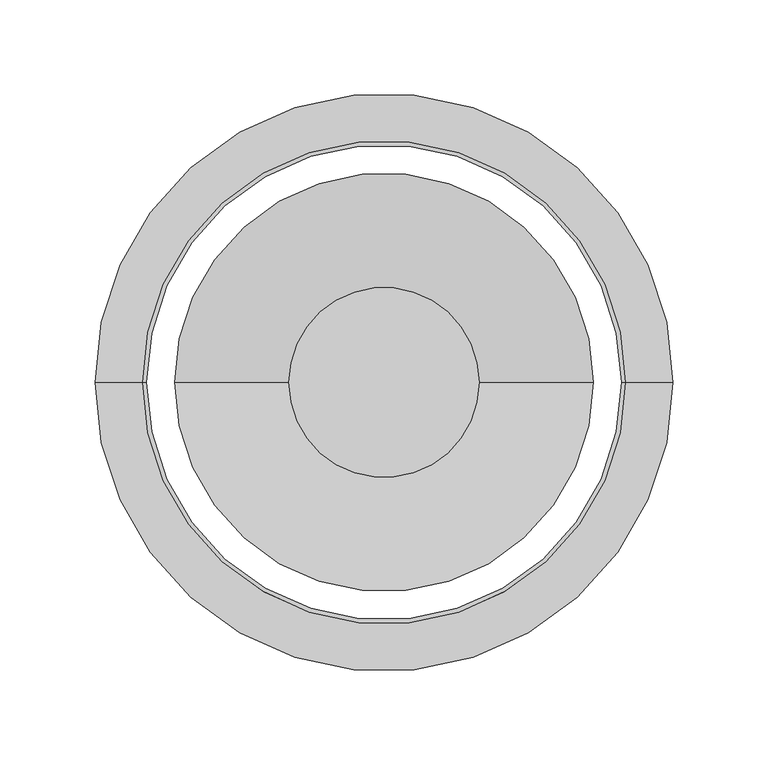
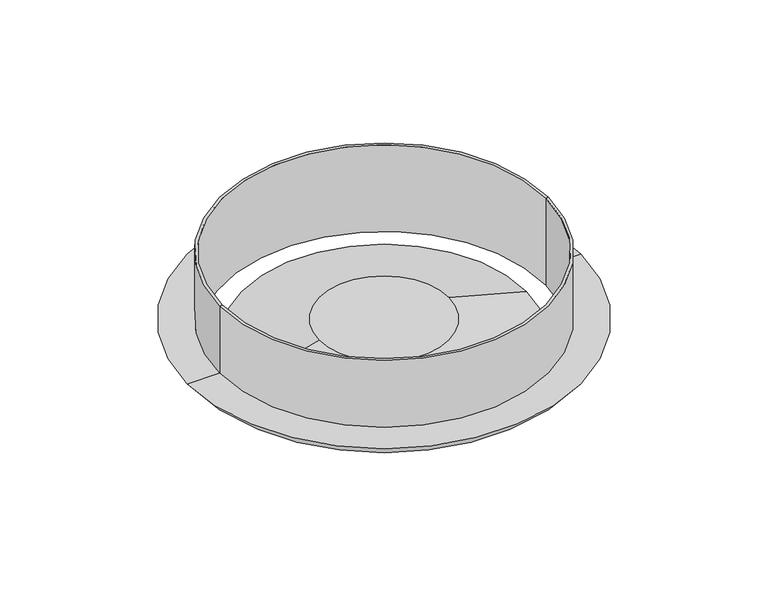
"""IFC4 building model written with IfcOpenShell, lengths in millimetres: air terminal geometry, ADSK_Диффузор_Круглый_Вытяжной : Ф250."""

from ifc_helpers import new_model, si_unit, point, frame, origin, origin_with_axes, place, context, project, spatial, polyline, circle_curve, ellipse_curve, trimmed, source, transform, mapped, element, save
from ifc_brep_helpers import plane_surface, cylinder_surface, revolved_surface, advanced_brep


def air_terminal_78af20ec(model_context):
    return source(origin(), model_context, "Body", "AdvancedBrep", [
        advanced_brep(
        [(50.0, 0.0, 0.0), (-50.0, 0.0, 0.0), (110.0, 0.0, -16.0), (-110.0, 0.0, -16.0)],
        [
            (0, 1, circle_curve(origin_with_axes(), 50.0)),
            (1, 0, circle_curve(frame((0.0, 0.0, 0.0), z_axis=(0.0, 0.0, 1.0), x_axis=(-1.0, 0.0, 0.0)), 50.0)),
            (2, 3, circle_curve(frame((0.0, 0.0, -16.0), z_axis=(0.0, 0.0, -1.0), x_axis=(-1.0, 0.0, 0.0)), 110.0)),
            (3, 2, circle_curve(frame((0.0, 0.0, -16.0), z_axis=(0.0, 0.0, -1.0), x_axis=(1.0, 0.0, 0.0)), 110.0)),
            (3, 1),
            (0, 2),
        ],
        [
            plane_surface(frame((0.0, 0.0, 0.0), z_axis=(0.0, 0.0, 1.0), x_axis=(0.0, 1.0, 0.0))),
            plane_surface(frame((0.0, 0.0, -16.0), z_axis=(0.0, 0.0, -1.0), x_axis=(0.0, 1.0, 0.0))),
            revolved_surface(polyline([(49.99999993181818, 0.0, 0.0), (110.0, 0.0, -16.0)]), (0.0, 0.0, 13.3333333), (0.0, 0.0, -1.0)),
            revolved_surface(polyline([(-49.99999993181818, 0.0, 0.0), (-110.0, 0.0, -16.0)]), (0.0, 0.0, 13.3333333), (0.0, 0.0, -1.0)),
        ],
        [
            (0, [[1, 2]]),
            (1, [[3, 4]]),
            (2, [[-4, 5, -1, 6]]),
            (3, [[-3, -6, -2, -5]]),
        ],
    ),
        advanced_brep(
        [(127.0, 0.0, 55.0), (-127.0, 0.0, 55.0), (-125.0, 0.0, 55.0), (125.0, 0.0, 55.0), (127.0, 0.0, 0.0), (-127.0, 0.0, 0.0), (-125.0, 0.0, -16.0), (125.0, 0.0, -16.0), (152.0, 0.0, 0.0), (-152.0, 0.0, 0.0)],
        [
            (0, 1, circle_curve(frame((0.0, 0.0, 55.0), z_axis=(0.0, 0.0, 1.0), x_axis=(-1.0, 0.0, 0.0)), 127.0)),
            (1, 2),
            (2, 3, circle_curve(frame((0.0, 0.0, 55.0), z_axis=(0.0, 0.0, -1.0), x_axis=(-1.0, 0.0, 0.0)), 125.0)),
            (3, 0),
            (1, 0, circle_curve(frame((0.0, 0.0, 55.0), z_axis=(0.0, 0.0, 1.0), x_axis=(-1.0, 0.0, 0.0)), 127.0)),
            (3, 2, circle_curve(frame((0.0, 0.0, 55.0), z_axis=(0.0, 0.0, -1.0), x_axis=(-1.0, 0.0, 0.0)), 125.0)),
            (4, 5, circle_curve(frame((0.0, 0.0, 0.0), z_axis=(0.0, 0.0, 1.0), x_axis=(-1.0, 0.0, 0.0)), 127.0)),
            (5, 1),
            (0, 4),
            (5, 4, circle_curve(frame((0.0, 0.0, 0.0), z_axis=(0.0, 0.0, 1.0), x_axis=(-1.0, 0.0, 0.0)), 127.0)),
            (2, 6),
            (6, 7, circle_curve(frame((0.0, 0.0, -16.0), z_axis=(0.0, 0.0, -1.0), x_axis=(-1.0, 0.0, 0.0)), 125.0)),
            (7, 3),
            (7, 6, circle_curve(frame((0.0, 0.0, -16.0), z_axis=(0.0, 0.0, -1.0), x_axis=(-1.0, 0.0, 0.0)), 125.0)),
            (8, 9, circle_curve(frame((0.0, 0.0, 0.0), z_axis=(0.0, 0.0, 1.0), x_axis=(-1.0, 0.0, 0.0)), 152.0)),
            (9, 5),
            (4, 8),
            (9, 8, circle_curve(frame((0.0, 0.0, 0.0), z_axis=(0.0, 0.0, 1.0), x_axis=(-1.0, 0.0, 0.0)), 152.0)),
            (6, 9, circle_curve(frame((-122.6124436, 0.0, 18.8102514), z_axis=(0.0, 1.0, 0.0), x_axis=(1.0, 0.0, 0.0)), 34.8920339)),
            (8, 7, circle_curve(frame((122.6124436, 0.0, 18.8102514), z_axis=(0.0, 1.0, 0.0), x_axis=(-1.0, 0.0, 0.0)), 34.8920339)),
        ],
        [
            plane_surface(frame((0.0, 0.0, 55.0), z_axis=(0.0, 0.0, 1.0), x_axis=(-1.0, 0.0, 0.0))),
            cylinder_surface(frame((0.0, 0.0, 70.0), z_axis=(0.0, 0.0, -1.0), x_axis=(-1.0, 0.0, 0.0)), 127.0),
            revolved_surface(polyline([(-125.0, 0.0, -16.0), (-125.0, 0.0, 55.0)]), (0.0, 0.0, 70.0), (0.0, 0.0, -1.0)),
            plane_surface(frame((0.0, 0.0, 0.0), z_axis=(0.0, 0.0, 1.0), x_axis=(-1.0, 0.0, 0.0))),
            revolved_surface(trimmed(ellipse_curve(frame((-122.6124436, 0.0, 18.8102514), z_axis=(0.0, -1.0, 0.0), x_axis=(1.0, 0.0, 0.0)), 34.8920339, 34.8920339), [point((-152.0, 0.0, 0.0))], [point((-125.0, 0.0, -16.0))], True, "CARTESIAN"), (0.0, 0.0, 70.0), (0.0, 0.0, -1.0)),
        ],
        [
            (0, [[1, 2, 3, 4]]),
            (0, [[5, -4, 6, -2]]),
            (1, [[7, 8, -1, 9]]),
            (1, [[10, -9, -5, -8]]),
            (2, [[-3, 11, 12, 13]]),
            (2, [[-6, -13, 14, -11]]),
            (3, [[15, 16, -7, 17]]),
            (3, [[18, -17, -10, -16]]),
            (4, [[-12, 19, -15, 20]]),
            (4, [[-14, -20, -18, -19]]),
        ],
    ),
    ])


if __name__ == "__main__":
    model = new_model("IFC4")
    model_context = context("Model", 3, world=origin())
    ifc_project = project(units=[si_unit("LENGTHUNIT", "METRE", prefix="MILLI")], contexts=[model_context])
    site = spatial("IfcSite", under=ifc_project)
    building = spatial("IfcBuilding", under=site)
    placement = place(None, origin())
    air_terminal_shape = air_terminal_78af20ec(model_context)
    element("IfcAirTerminal", 1, ObjectType="ADSK_Диффузор_Круглый_Вытяжной : Ф250", at=placement, inside=building, context=model_context, shape_type="MappedRepresentation", body=[
        mapped(air_terminal_shape, transform((0.0, 0.0, 0.0), x_axis=(1.0, 0.0, 0.0), y_axis=(0.0, 1.0, 0.0), z_axis=(0.0, 0.0, 1.0))),
    ])
    save(model, "model.ifc")
